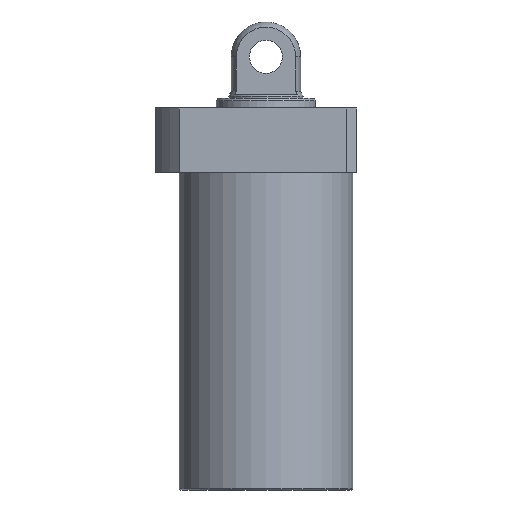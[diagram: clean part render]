
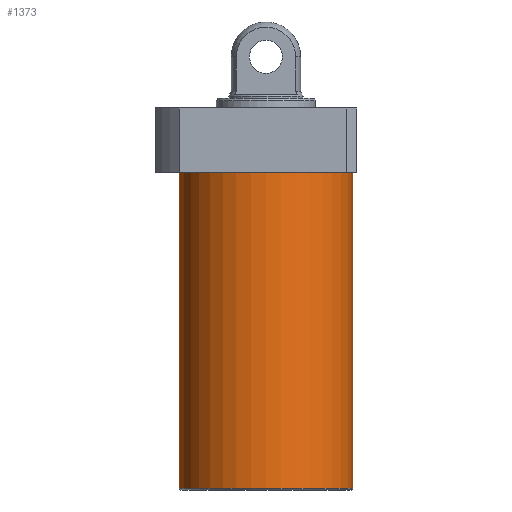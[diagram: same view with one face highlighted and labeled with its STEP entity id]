
A CAD part, front view. The second image highlights one B-rep face of the part: STEP entity #1373.
In plain terms, the highlighted cylindrical face has radius 52.5 mm (diameter 105 mm), a partial arc.
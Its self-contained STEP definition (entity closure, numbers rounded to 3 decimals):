
#82 = VERTEX_POINT ( 'NONE', #1172 ) ;
#173 = AXIS2_PLACEMENT_3D ( 'NONE', #1639, #810, #528 ) ;
#205 = AXIS2_PLACEMENT_3D ( 'NONE', #1328, #1484, #509 ) ;
#231 = DIRECTION ( 'NONE',  ( 1., 0., 0. ) ) ;
#236 = CARTESIAN_POINT ( 'NONE',  ( 52.5, 0., -210.5 ) ) ;
#245 = EDGE_CURVE ( 'NONE', #1377, #1763, #702, .T. ) ;
#308 = DIRECTION ( 'NONE',  ( 0., 0., 1. ) ) ;
#323 = AXIS2_PLACEMENT_3D ( 'NONE', #1783, #926, #231 ) ;
#368 = EDGE_CURVE ( 'NONE', #836, #82, #1104, .T. ) ;
#369 = VECTOR ( 'NONE', #308, 1000. ) ;
#420 = CARTESIAN_POINT ( 'NONE',  ( -52.5, 0., -210.5 ) ) ;
#498 = ORIENTED_EDGE ( 'NONE', *, *, #716, .T. ) ;
#505 = EDGE_LOOP ( 'NONE', ( #682, #1091, #1437, #498 ) ) ;
#509 = DIRECTION ( 'NONE',  ( -1., 0., 0. ) ) ;
#528 = DIRECTION ( 'NONE',  ( 1., 0., 0. ) ) ;
#682 = ORIENTED_EDGE ( 'NONE', *, *, #368, .F. ) ;
#702 = LINE ( 'NONE', #1525, #1305 ) ;
#716 = EDGE_CURVE ( 'NONE', #1763, #82, #1354, .T. ) ;
#810 = DIRECTION ( 'NONE',  ( 0., 0., 1. ) ) ;
#836 = VERTEX_POINT ( 'NONE', #420 ) ;
#926 = DIRECTION ( 'NONE',  ( 0., 0., -1. ) ) ;
#948 = DIRECTION ( 'NONE',  ( 0., 0., 1. ) ) ;
#1012 = CARTESIAN_POINT ( 'NONE',  ( 52.5, 0., -19.5 ) ) ;
#1091 = ORIENTED_EDGE ( 'NONE', *, *, #1743, .T. ) ;
#1104 = LINE ( 'NONE', #1663, #369 ) ;
#1117 = FACE_OUTER_BOUND ( 'NONE', #505, .T. ) ;
#1172 = CARTESIAN_POINT ( 'NONE',  ( -52.5, 0., -19.5 ) ) ;
#1305 = VECTOR ( 'NONE', #948, 1000. ) ;
#1328 = CARTESIAN_POINT ( 'NONE',  ( 0., 0., -210.5 ) ) ;
#1354 = CIRCLE ( 'NONE', #323, 52.5 ) ;
#1373 = ADVANCED_FACE ( 'NONE', ( #1117 ), #1591, .T. ) ;
#1377 = VERTEX_POINT ( 'NONE', #236 ) ;
#1437 = ORIENTED_EDGE ( 'NONE', *, *, #245, .T. ) ;
#1484 = DIRECTION ( 'NONE',  ( 0., 0., 1. ) ) ;
#1487 = CIRCLE ( 'NONE', #205, 52.5 ) ;
#1525 = CARTESIAN_POINT ( 'NONE',  ( 52.5, 0., -211.5 ) ) ;
#1591 = CYLINDRICAL_SURFACE ( 'NONE', #173, 52.5 ) ;
#1639 = CARTESIAN_POINT ( 'NONE',  ( 0., 0., -211.5 ) ) ;
#1663 = CARTESIAN_POINT ( 'NONE',  ( -52.5, 0., -211.5 ) ) ;
#1743 = EDGE_CURVE ( 'NONE', #836, #1377, #1487, .T. ) ;
#1763 = VERTEX_POINT ( 'NONE', #1012 ) ;
#1783 = CARTESIAN_POINT ( 'NONE',  ( 0., 0., -19.5 ) ) ;
